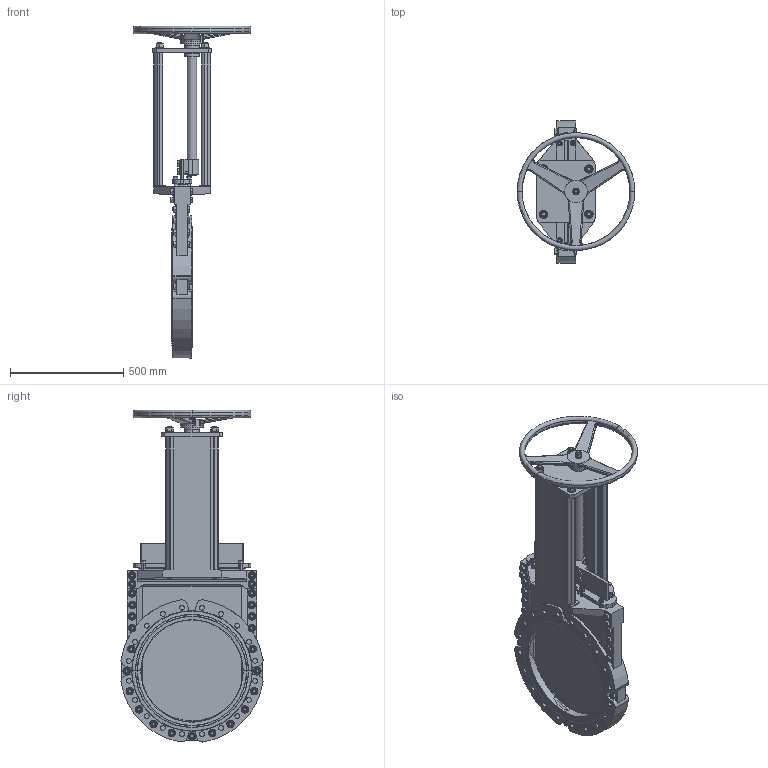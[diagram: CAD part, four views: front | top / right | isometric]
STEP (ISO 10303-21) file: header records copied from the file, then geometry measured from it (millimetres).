
FILE_DESCRIPTION(('STEP AP203'),'1');
FILE_NAME('G:/KONSTRUK/3-d block för CD/WB VALVE/HAND WHEEL/450/WB14-DN450-PN10-HW.stp','2016-06-22T08:09:31',(' '),(' '),'Spatial InterOp 3D',' ',' ');
FILE_SCHEMA(('CONFIG_CONTROL_DESIGN'));
Length unit declared in the file: millimetre
Products named in the file (1): 1
Bounding box: 520 x 627.8 x 1466.4 mm (x, y, z)
Volume: 32536704.1 mm3; surface area: 4573955 mm2
Topology: 1 solids, 39 shells, 3415 faces, 7961 edges, 4944 vertices
Faces by surface type: plane 1168, cylinder 1124, cone 933, torus 148, bspline 42
Entity records: 107079 total; most frequent: CARTESIAN_POINT 30355, DIRECTION 16753, ORIENTED_EDGE 15910, EDGE_CURVE 7955, AXIS2_PLACEMENT_3D 6940, VERTEX_POINT 4944, EDGE_LOOP 3857, CIRCLE 3534
